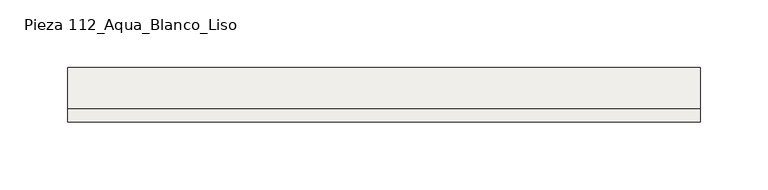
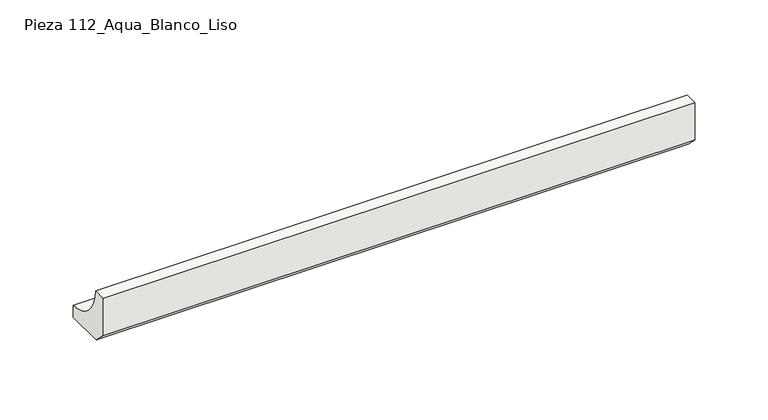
"""IFC4 building model written with IfcOpenShell, lengths in millimetres: slab geometry, ROSA GRES_112 : Pieza 112_Aqua_Blanco_Liso."""

from ifc_helpers import new_model, si_unit, point, frame, frame_2d, origin, place, context, project, spatial, polyline, circle_curve, trimmed, segment, composite_curve, outline, extrude, source, transform, mapped, element, save


def pieza_112_aqua_blanco_liso_29996f7a(model_context):
    return source(origin(), model_context, "Body", "SweptSolid", [
        extrude(outline(composite_curve([segment(polyline([(-9.9734114, 8.7114978), (-9.9734114, 40.0), (0.0, 40.0)]), True, "CONTINUOUS"), segment(trimmed(circle_curve(frame_2d((30.0221432, 39.9955547)), 30.0221435), [point((0.0, 40.0))], [point((30.0265886, 9.9734114))], True, "CARTESIAN"), True, "CONTINUOUS"), segment(polyline([(30.0265886, 9.9734114), (30.0265886, 0.0), (-1.2619137, 0.0), (-9.9734114, 8.7114978)]), True, "CONTINUOUS")], self_intersect=False)), frame((0.0, 0.0, 0.0), z_axis=(1.0, 0.0, 0.0), x_axis=(0.0, 1.0, 0.0)), (0.0, 0.0, 1.0), 465.0661546),
    ])


if __name__ == "__main__":
    model = new_model("IFC4")
    model_context = context("Model", 3, world=origin())
    ifc_project = project(units=[si_unit("LENGTHUNIT", "METRE", prefix="MILLI")], contexts=[model_context])
    site = spatial("IfcSite", under=ifc_project)
    building = spatial("IfcBuilding", under=site)
    placement = place(None, origin())
    pieza_112_aqua_blanco_liso_shape = pieza_112_aqua_blanco_liso_29996f7a(model_context)
    element("IfcSlab", 1, ObjectType="ROSA GRES_112 : Pieza 112_Aqua_Blanco_Liso", at=placement, inside=building, context=model_context, shape_type="MappedRepresentation", body=[
        mapped(pieza_112_aqua_blanco_liso_shape, transform((0.0, 0.0, 0.0), x_axis=(1.0, 0.0, 0.0), y_axis=(0.0, 1.0, 0.0), z_axis=(0.0, 0.0, 1.0))),
    ])
    save(model, "model.ifc")
